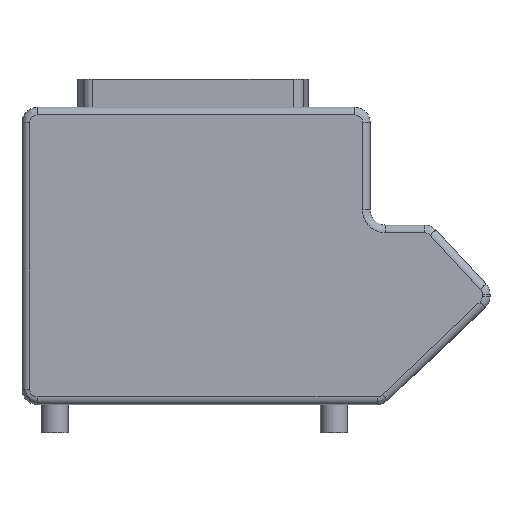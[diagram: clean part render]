
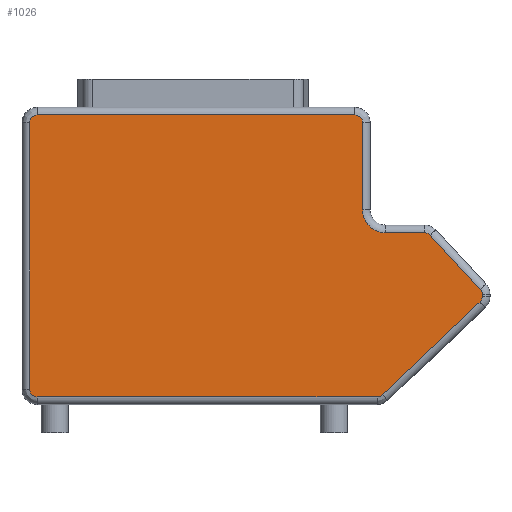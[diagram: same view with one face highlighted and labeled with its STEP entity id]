
A CAD part, front view. The second image highlights one B-rep face of the part: STEP entity #1026.
In plain terms, the highlighted planar face has unit normal (0, -1, 0).
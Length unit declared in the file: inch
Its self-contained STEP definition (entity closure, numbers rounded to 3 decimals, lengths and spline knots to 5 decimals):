
#35=DIRECTION('',(0.,0.,-1.));
#36=VECTOR('',#35,1.749);
#37=CARTESIAN_POINT('',(0.05,0.,-0.1));
#38=LINE('',#37,#36);
#39=CARTESIAN_POINT('',(0.1,0.,-0.1));
#40=DIRECTION('',(0.,1.,0.));
#41=DIRECTION('',(-1.,0.,0.));
#42=AXIS2_PLACEMENT_3D('',#39,#40,#41);
#44=DIRECTION('',(-1.,0.,0.));
#45=VECTOR('',#44,2.083);
#46=CARTESIAN_POINT('',(2.183,0.,-0.05));
#47=LINE('',#46,#45);
#48=CARTESIAN_POINT('',(2.183,0.,-0.1));
#49=DIRECTION('',(0.,1.,0.));
#50=DIRECTION('',(0.,0.,1.));
#51=AXIS2_PLACEMENT_3D('',#48,#49,#50);
#53=DIRECTION('',(0.,0.,1.));
#54=VECTOR('',#53,0.572);
#55=CARTESIAN_POINT('',(2.233,0.,-0.672));
#56=LINE('',#55,#54);
#57=CARTESIAN_POINT('',(2.383,0.,-0.672));
#58=DIRECTION('',(0.,-1.,0.));
#59=DIRECTION('',(-1.,0.,0.));
#60=AXIS2_PLACEMENT_3D('',#57,#58,#59);
#62=DIRECTION('',(-1.,0.,0.));
#63=VECTOR('',#62,0.25644);
#64=CARTESIAN_POINT('',(2.63944,0.,-0.822));
#65=LINE('',#64,#63);
#66=CARTESIAN_POINT('',(2.63944,0.,-0.872));
#67=DIRECTION('',(0.,1.,0.));
#68=DIRECTION('',(0.,0.,1.));
#69=AXIS2_PLACEMENT_3D('',#66,#67,#68);
#71=DIRECTION('',(-0.681,0.,0.732));
#72=VECTOR('',#71,0.48389);
#73=CARTESIAN_POINT('',(3.00561,0.,-1.19226));
#74=LINE('',#73,#72);
#75=CARTESIAN_POINT('',(2.969,0.,-1.22632));
#76=DIRECTION('',(0.,1.,0.));
#77=DIRECTION('',(0.732,0.,0.681));
#78=AXIS2_PLACEMENT_3D('',#75,#76,#77);
#80=DIRECTION('',(0.,0.,1.));
#81=VECTOR('',#80,0.01427);
#82=CARTESIAN_POINT('',(3.019,0.,-1.24059));
#83=LINE('',#82,#81);
#84=CARTESIAN_POINT('',(2.969,0.,-1.24059));
#85=DIRECTION('',(0.,1.,0.));
#86=DIRECTION('',(1.,0.,0.));
#87=AXIS2_PLACEMENT_3D('',#84,#85,#86);
#89=DIRECTION('',(0.725,0.,0.689));
#90=VECTOR('',#89,0.883);
#91=CARTESIAN_POINT('',(2.3635,0.,-1.88524));
#92=LINE('',#91,#90);
#93=CARTESIAN_POINT('',(2.32905,0.,-1.849));
#94=DIRECTION('',(0.,1.,0.));
#95=DIRECTION('',(0.689,0.,-0.725));
#96=AXIS2_PLACEMENT_3D('',#93,#94,#95);
#98=DIRECTION('',(1.,0.,0.));
#99=VECTOR('',#98,2.22905);
#100=CARTESIAN_POINT('',(0.1,0.,-1.899));
#101=LINE('',#100,#99);
#102=CARTESIAN_POINT('',(0.1,0.,-1.849));
#103=DIRECTION('',(0.,1.,0.));
#104=DIRECTION('',(0.,0.,-1.));
#105=AXIS2_PLACEMENT_3D('',#102,#103,#104);
#905=CARTESIAN_POINT('',(0.05,0.,-0.1));
#906=CARTESIAN_POINT('',(0.05,0.,-1.849));
#907=VERTEX_POINT('',#905);
#908=VERTEX_POINT('',#906);
#909=CARTESIAN_POINT('',(0.1,0.,-1.899));
#910=CARTESIAN_POINT('',(2.32905,0.,-1.899));
#911=VERTEX_POINT('',#909);
#912=VERTEX_POINT('',#910);
#913=CARTESIAN_POINT('',(2.3635,0.,-1.88524));
#914=CARTESIAN_POINT('',(3.00345,0.,-1.27683));
#915=VERTEX_POINT('',#913);
#916=VERTEX_POINT('',#914);
#917=CARTESIAN_POINT('',(3.019,0.,-1.24059));
#918=CARTESIAN_POINT('',(3.019,0.,-1.22632));
#919=VERTEX_POINT('',#917);
#920=VERTEX_POINT('',#918);
#921=CARTESIAN_POINT('',(3.00561,0.,-1.19226));
#922=CARTESIAN_POINT('',(2.67605,0.,-0.83795));
#923=VERTEX_POINT('',#921);
#924=VERTEX_POINT('',#922);
#925=CARTESIAN_POINT('',(2.63944,0.,-0.822));
#926=CARTESIAN_POINT('',(2.383,0.,-0.822));
#927=VERTEX_POINT('',#925);
#928=VERTEX_POINT('',#926);
#929=CARTESIAN_POINT('',(2.233,0.,-0.672));
#930=CARTESIAN_POINT('',(2.233,0.,-0.1));
#931=VERTEX_POINT('',#929);
#932=VERTEX_POINT('',#930);
#933=CARTESIAN_POINT('',(2.183,0.,-0.05));
#934=CARTESIAN_POINT('',(0.1,0.,-0.05));
#935=VERTEX_POINT('',#933);
#936=VERTEX_POINT('',#934);
#987=CARTESIAN_POINT('',(0.,0.,0.));
#988=DIRECTION('',(0.,1.,0.));
#989=DIRECTION('',(1.,0.,0.));
#990=AXIS2_PLACEMENT_3D('',#987,#988,#989);
#991=PLANE('',#990);
#993=ORIENTED_EDGE('',*,*,#992,.F.);
#995=ORIENTED_EDGE('',*,*,#994,.T.);
#997=ORIENTED_EDGE('',*,*,#996,.F.);
#999=ORIENTED_EDGE('',*,*,#998,.T.);
#1001=ORIENTED_EDGE('',*,*,#1000,.F.);
#1003=ORIENTED_EDGE('',*,*,#1002,.T.);
#1005=ORIENTED_EDGE('',*,*,#1004,.F.);
#1007=ORIENTED_EDGE('',*,*,#1006,.T.);
#1009=ORIENTED_EDGE('',*,*,#1008,.F.);
#1011=ORIENTED_EDGE('',*,*,#1010,.T.);
#1013=ORIENTED_EDGE('',*,*,#1012,.F.);
#1015=ORIENTED_EDGE('',*,*,#1014,.T.);
#1017=ORIENTED_EDGE('',*,*,#1016,.F.);
#1019=ORIENTED_EDGE('',*,*,#1018,.T.);
#1021=ORIENTED_EDGE('',*,*,#1020,.F.);
#1023=ORIENTED_EDGE('',*,*,#1022,.T.);
#1024=EDGE_LOOP('',(#993,#995,#997,#999,#1001,#1003,#1005,#1007,#1009,#1011,
#1013,#1015,#1017,#1019,#1021,#1023));
#1025=FACE_OUTER_BOUND('',#1024,.F.);
#1026=ADVANCED_FACE('',(#1025),#991,.F.);
#43=CIRCLE('',#42,0.05);
#52=CIRCLE('',#51,0.05);
#61=CIRCLE('',#60,0.15);
#70=CIRCLE('',#69,0.05);
#79=CIRCLE('',#78,0.05);
#88=CIRCLE('',#87,0.05);
#97=CIRCLE('',#96,0.05);
#106=CIRCLE('',#105,0.05);
#992=EDGE_CURVE('',#907,#908,#38,.T.);
#994=EDGE_CURVE('',#907,#936,#43,.T.);
#996=EDGE_CURVE('',#935,#936,#47,.T.);
#998=EDGE_CURVE('',#935,#932,#52,.T.);
#1000=EDGE_CURVE('',#931,#932,#56,.T.);
#1002=EDGE_CURVE('',#931,#928,#61,.T.);
#1004=EDGE_CURVE('',#927,#928,#65,.T.);
#1006=EDGE_CURVE('',#927,#924,#70,.T.);
#1008=EDGE_CURVE('',#923,#924,#74,.T.);
#1010=EDGE_CURVE('',#923,#920,#79,.T.);
#1012=EDGE_CURVE('',#919,#920,#83,.T.);
#1014=EDGE_CURVE('',#919,#916,#88,.T.);
#1016=EDGE_CURVE('',#915,#916,#92,.T.);
#1018=EDGE_CURVE('',#915,#912,#97,.T.);
#1020=EDGE_CURVE('',#911,#912,#101,.T.);
#1022=EDGE_CURVE('',#911,#908,#106,.T.);
